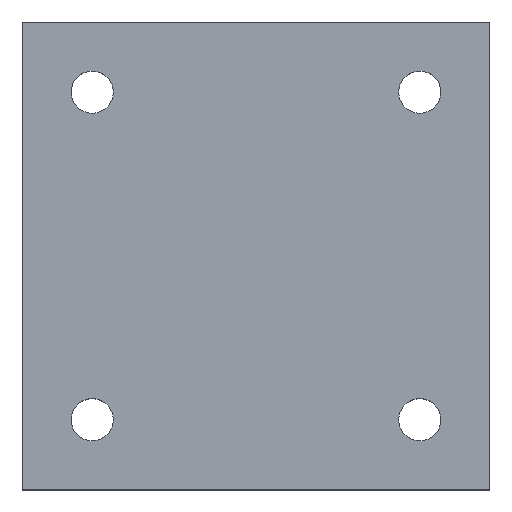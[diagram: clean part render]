
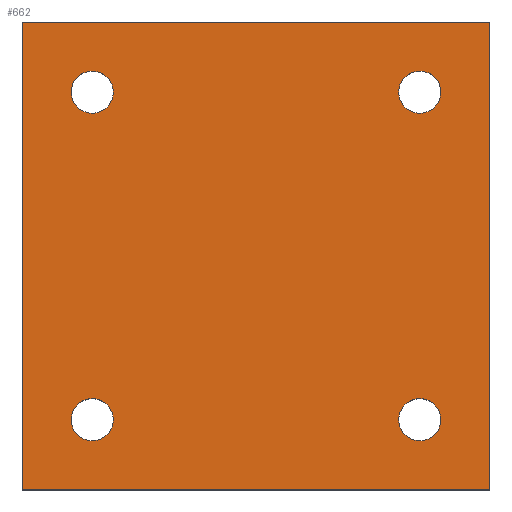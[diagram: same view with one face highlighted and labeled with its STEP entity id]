
A CAD part, top view. The second image highlights one B-rep face of the part: STEP entity #662.
In plain terms, the highlighted planar face has unit normal (0, 0, 1).
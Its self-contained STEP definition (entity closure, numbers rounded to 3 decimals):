
#24 = VERTEX_POINT('',#25);
#25 = CARTESIAN_POINT('',(-100.,-100.,20.));
#32 = PLANE('',#33);
#33 = AXIS2_PLACEMENT_3D('',#34,#35,#36);
#34 = CARTESIAN_POINT('',(-100.,-100.,0.));
#35 = DIRECTION('',(0.,1.,0.));
#36 = DIRECTION('',(1.,0.,0.));
#44 = PLANE('',#45);
#45 = AXIS2_PLACEMENT_3D('',#46,#47,#48);
#46 = CARTESIAN_POINT('',(-100.,100.,0.));
#47 = DIRECTION('',(1.,0.,-0.));
#48 = DIRECTION('',(0.,-1.,0.));
#56 = EDGE_CURVE('',#24,#57,#59,.T.);
#57 = VERTEX_POINT('',#58);
#58 = CARTESIAN_POINT('',(100.,-100.,20.));
#59 = SURFACE_CURVE('',#60,(#64,#71),.PCURVE_S1.);
#60 = LINE('',#61,#62);
#61 = CARTESIAN_POINT('',(-100.,-100.,20.));
#62 = VECTOR('',#63,1.);
#63 = DIRECTION('',(1.,0.,0.));
#64 = PCURVE('',#32,#65);
#65 = DEFINITIONAL_REPRESENTATION('',(#66),#70);
#66 = LINE('',#67,#68);
#67 = CARTESIAN_POINT('',(0.,-20.));
#68 = VECTOR('',#69,1.);
#69 = DIRECTION('',(1.,0.));
#70 = ( GEOMETRIC_REPRESENTATION_CONTEXT(2) 
PARAMETRIC_REPRESENTATION_CONTEXT() REPRESENTATION_CONTEXT('2D SPACE',''
  ) );
#71 = PCURVE('',#72,#77);
#72 = PLANE('',#73);
#73 = AXIS2_PLACEMENT_3D('',#74,#75,#76);
#74 = CARTESIAN_POINT('',(0.,0.,20.));
#75 = DIRECTION('',(0.,0.,1.));
#76 = DIRECTION('',(1.,0.,-0.));
#77 = DEFINITIONAL_REPRESENTATION('',(#78),#82);
#78 = LINE('',#79,#80);
#79 = CARTESIAN_POINT('',(-100.,-100.));
#80 = VECTOR('',#81,1.);
#81 = DIRECTION('',(1.,0.));
#82 = ( GEOMETRIC_REPRESENTATION_CONTEXT(2) 
PARAMETRIC_REPRESENTATION_CONTEXT() REPRESENTATION_CONTEXT('2D SPACE',''
  ) );
#100 = PLANE('',#101);
#101 = AXIS2_PLACEMENT_3D('',#102,#103,#104);
#102 = CARTESIAN_POINT('',(100.,-100.,0.));
#103 = DIRECTION('',(-1.,0.,0.));
#104 = DIRECTION('',(0.,1.,0.));
#142 = EDGE_CURVE('',#57,#143,#145,.T.);
#143 = VERTEX_POINT('',#144);
#144 = CARTESIAN_POINT('',(100.,100.,20.));
#145 = SURFACE_CURVE('',#146,(#150,#157),.PCURVE_S1.);
#146 = LINE('',#147,#148);
#147 = CARTESIAN_POINT('',(100.,-100.,20.));
#148 = VECTOR('',#149,1.);
#149 = DIRECTION('',(0.,1.,0.));
#150 = PCURVE('',#100,#151);
#151 = DEFINITIONAL_REPRESENTATION('',(#152),#156);
#152 = LINE('',#153,#154);
#153 = CARTESIAN_POINT('',(0.,-20.));
#154 = VECTOR('',#155,1.);
#155 = DIRECTION('',(1.,0.));
#156 = ( GEOMETRIC_REPRESENTATION_CONTEXT(2) 
PARAMETRIC_REPRESENTATION_CONTEXT() REPRESENTATION_CONTEXT('2D SPACE',''
  ) );
#157 = PCURVE('',#72,#158);
#158 = DEFINITIONAL_REPRESENTATION('',(#159),#163);
#159 = LINE('',#160,#161);
#160 = CARTESIAN_POINT('',(100.,-100.));
#161 = VECTOR('',#162,1.);
#162 = DIRECTION('',(0.,1.));
#163 = ( GEOMETRIC_REPRESENTATION_CONTEXT(2) 
PARAMETRIC_REPRESENTATION_CONTEXT() REPRESENTATION_CONTEXT('2D SPACE',''
  ) );
#181 = PLANE('',#182);
#182 = AXIS2_PLACEMENT_3D('',#183,#184,#185);
#183 = CARTESIAN_POINT('',(100.,100.,0.));
#184 = DIRECTION('',(0.,-1.,0.));
#185 = DIRECTION('',(-1.,0.,0.));
#218 = EDGE_CURVE('',#143,#219,#221,.T.);
#219 = VERTEX_POINT('',#220);
#220 = CARTESIAN_POINT('',(-100.,100.,20.));
#221 = SURFACE_CURVE('',#222,(#226,#233),.PCURVE_S1.);
#222 = LINE('',#223,#224);
#223 = CARTESIAN_POINT('',(100.,100.,20.));
#224 = VECTOR('',#225,1.);
#225 = DIRECTION('',(-1.,0.,0.));
#226 = PCURVE('',#181,#227);
#227 = DEFINITIONAL_REPRESENTATION('',(#228),#232);
#228 = LINE('',#229,#230);
#229 = CARTESIAN_POINT('',(0.,-20.));
#230 = VECTOR('',#231,1.);
#231 = DIRECTION('',(1.,0.));
#232 = ( GEOMETRIC_REPRESENTATION_CONTEXT(2) 
PARAMETRIC_REPRESENTATION_CONTEXT() REPRESENTATION_CONTEXT('2D SPACE',''
  ) );
#233 = PCURVE('',#72,#234);
#234 = DEFINITIONAL_REPRESENTATION('',(#235),#239);
#235 = LINE('',#236,#237);
#236 = CARTESIAN_POINT('',(100.,100.));
#237 = VECTOR('',#238,1.);
#238 = DIRECTION('',(-1.,0.));
#239 = ( GEOMETRIC_REPRESENTATION_CONTEXT(2) 
PARAMETRIC_REPRESENTATION_CONTEXT() REPRESENTATION_CONTEXT('2D SPACE',''
  ) );
#289 = EDGE_CURVE('',#219,#24,#290,.T.);
#290 = SURFACE_CURVE('',#291,(#295,#302),.PCURVE_S1.);
#291 = LINE('',#292,#293);
#292 = CARTESIAN_POINT('',(-100.,100.,20.));
#293 = VECTOR('',#294,1.);
#294 = DIRECTION('',(0.,-1.,0.));
#295 = PCURVE('',#44,#296);
#296 = DEFINITIONAL_REPRESENTATION('',(#297),#301);
#297 = LINE('',#298,#299);
#298 = CARTESIAN_POINT('',(0.,-20.));
#299 = VECTOR('',#300,1.);
#300 = DIRECTION('',(1.,0.));
#301 = ( GEOMETRIC_REPRESENTATION_CONTEXT(2) 
PARAMETRIC_REPRESENTATION_CONTEXT() REPRESENTATION_CONTEXT('2D SPACE',''
  ) );
#302 = PCURVE('',#72,#303);
#303 = DEFINITIONAL_REPRESENTATION('',(#304),#308);
#304 = LINE('',#305,#306);
#305 = CARTESIAN_POINT('',(-100.,100.));
#306 = VECTOR('',#307,1.);
#307 = DIRECTION('',(0.,-1.));
#308 = ( GEOMETRIC_REPRESENTATION_CONTEXT(2) 
PARAMETRIC_REPRESENTATION_CONTEXT() REPRESENTATION_CONTEXT('2D SPACE',''
  ) );
#338 = VERTEX_POINT('',#339);
#339 = CARTESIAN_POINT('',(-61.,-70.,20.));
#346 = CYLINDRICAL_SURFACE('',#347,9.);
#347 = AXIS2_PLACEMENT_3D('',#348,#349,#350);
#348 = CARTESIAN_POINT('',(-70.,-70.,0.));
#349 = DIRECTION('',(-0.,-0.,-1.));
#350 = DIRECTION('',(1.,0.,-0.));
#365 = EDGE_CURVE('',#338,#338,#366,.T.);
#366 = SURFACE_CURVE('',#367,(#372,#379),.PCURVE_S1.);
#367 = CIRCLE('',#368,9.);
#368 = AXIS2_PLACEMENT_3D('',#369,#370,#371);
#369 = CARTESIAN_POINT('',(-70.,-70.,20.));
#370 = DIRECTION('',(0.,0.,1.));
#371 = DIRECTION('',(1.,0.,-0.));
#372 = PCURVE('',#346,#373);
#373 = DEFINITIONAL_REPRESENTATION('',(#374),#378);
#374 = LINE('',#375,#376);
#375 = CARTESIAN_POINT('',(-0.,-20.));
#376 = VECTOR('',#377,1.);
#377 = DIRECTION('',(-1.,0.));
#378 = ( GEOMETRIC_REPRESENTATION_CONTEXT(2) 
PARAMETRIC_REPRESENTATION_CONTEXT() REPRESENTATION_CONTEXT('2D SPACE',''
  ) );
#379 = PCURVE('',#72,#380);
#380 = DEFINITIONAL_REPRESENTATION('',(#381),#385);
#381 = CIRCLE('',#382,9.);
#382 = AXIS2_PLACEMENT_2D('',#383,#384);
#383 = CARTESIAN_POINT('',(-70.,-70.));
#384 = DIRECTION('',(1.,0.));
#385 = ( GEOMETRIC_REPRESENTATION_CONTEXT(2) 
PARAMETRIC_REPRESENTATION_CONTEXT() REPRESENTATION_CONTEXT('2D SPACE',''
  ) );
#416 = VERTEX_POINT('',#417);
#417 = CARTESIAN_POINT('',(-61.,70.,20.));
#424 = CYLINDRICAL_SURFACE('',#425,9.);
#425 = AXIS2_PLACEMENT_3D('',#426,#427,#428);
#426 = CARTESIAN_POINT('',(-70.,70.,0.));
#427 = DIRECTION('',(-0.,-0.,-1.));
#428 = DIRECTION('',(1.,0.,-0.));
#443 = EDGE_CURVE('',#416,#416,#444,.T.);
#444 = SURFACE_CURVE('',#445,(#450,#457),.PCURVE_S1.);
#445 = CIRCLE('',#446,9.);
#446 = AXIS2_PLACEMENT_3D('',#447,#448,#449);
#447 = CARTESIAN_POINT('',(-70.,70.,20.));
#448 = DIRECTION('',(0.,0.,1.));
#449 = DIRECTION('',(1.,0.,-0.));
#450 = PCURVE('',#424,#451);
#451 = DEFINITIONAL_REPRESENTATION('',(#452),#456);
#452 = LINE('',#453,#454);
#453 = CARTESIAN_POINT('',(-0.,-20.));
#454 = VECTOR('',#455,1.);
#455 = DIRECTION('',(-1.,0.));
#456 = ( GEOMETRIC_REPRESENTATION_CONTEXT(2) 
PARAMETRIC_REPRESENTATION_CONTEXT() REPRESENTATION_CONTEXT('2D SPACE',''
  ) );
#457 = PCURVE('',#72,#458);
#458 = DEFINITIONAL_REPRESENTATION('',(#459),#463);
#459 = CIRCLE('',#460,9.);
#460 = AXIS2_PLACEMENT_2D('',#461,#462);
#461 = CARTESIAN_POINT('',(-70.,70.));
#462 = DIRECTION('',(1.,0.));
#463 = ( GEOMETRIC_REPRESENTATION_CONTEXT(2) 
PARAMETRIC_REPRESENTATION_CONTEXT() REPRESENTATION_CONTEXT('2D SPACE',''
  ) );
#494 = VERTEX_POINT('',#495);
#495 = CARTESIAN_POINT('',(79.,-70.,20.));
#502 = CYLINDRICAL_SURFACE('',#503,9.);
#503 = AXIS2_PLACEMENT_3D('',#504,#505,#506);
#504 = CARTESIAN_POINT('',(70.,-70.,0.));
#505 = DIRECTION('',(-0.,-0.,-1.));
#506 = DIRECTION('',(1.,0.,-0.));
#521 = EDGE_CURVE('',#494,#494,#522,.T.);
#522 = SURFACE_CURVE('',#523,(#528,#535),.PCURVE_S1.);
#523 = CIRCLE('',#524,9.);
#524 = AXIS2_PLACEMENT_3D('',#525,#526,#527);
#525 = CARTESIAN_POINT('',(70.,-70.,20.));
#526 = DIRECTION('',(0.,0.,1.));
#527 = DIRECTION('',(1.,0.,-0.));
#528 = PCURVE('',#502,#529);
#529 = DEFINITIONAL_REPRESENTATION('',(#530),#534);
#530 = LINE('',#531,#532);
#531 = CARTESIAN_POINT('',(-0.,-20.));
#532 = VECTOR('',#533,1.);
#533 = DIRECTION('',(-1.,0.));
#534 = ( GEOMETRIC_REPRESENTATION_CONTEXT(2) 
PARAMETRIC_REPRESENTATION_CONTEXT() REPRESENTATION_CONTEXT('2D SPACE',''
  ) );
#535 = PCURVE('',#72,#536);
#536 = DEFINITIONAL_REPRESENTATION('',(#537),#541);
#537 = CIRCLE('',#538,9.);
#538 = AXIS2_PLACEMENT_2D('',#539,#540);
#539 = CARTESIAN_POINT('',(70.,-70.));
#540 = DIRECTION('',(1.,0.));
#541 = ( GEOMETRIC_REPRESENTATION_CONTEXT(2) 
PARAMETRIC_REPRESENTATION_CONTEXT() REPRESENTATION_CONTEXT('2D SPACE',''
  ) );
#572 = VERTEX_POINT('',#573);
#573 = CARTESIAN_POINT('',(79.,70.,20.));
#580 = CYLINDRICAL_SURFACE('',#581,9.);
#581 = AXIS2_PLACEMENT_3D('',#582,#583,#584);
#582 = CARTESIAN_POINT('',(70.,70.,0.));
#583 = DIRECTION('',(-0.,-0.,-1.));
#584 = DIRECTION('',(1.,0.,-0.));
#599 = EDGE_CURVE('',#572,#572,#600,.T.);
#600 = SURFACE_CURVE('',#601,(#606,#613),.PCURVE_S1.);
#601 = CIRCLE('',#602,9.);
#602 = AXIS2_PLACEMENT_3D('',#603,#604,#605);
#603 = CARTESIAN_POINT('',(70.,70.,20.));
#604 = DIRECTION('',(0.,0.,1.));
#605 = DIRECTION('',(1.,0.,-0.));
#606 = PCURVE('',#580,#607);
#607 = DEFINITIONAL_REPRESENTATION('',(#608),#612);
#608 = LINE('',#609,#610);
#609 = CARTESIAN_POINT('',(-0.,-20.));
#610 = VECTOR('',#611,1.);
#611 = DIRECTION('',(-1.,0.));
#612 = ( GEOMETRIC_REPRESENTATION_CONTEXT(2) 
PARAMETRIC_REPRESENTATION_CONTEXT() REPRESENTATION_CONTEXT('2D SPACE',''
  ) );
#613 = PCURVE('',#72,#614);
#614 = DEFINITIONAL_REPRESENTATION('',(#615),#619);
#615 = CIRCLE('',#616,9.);
#616 = AXIS2_PLACEMENT_2D('',#617,#618);
#617 = CARTESIAN_POINT('',(70.,70.));
#618 = DIRECTION('',(1.,0.));
#619 = ( GEOMETRIC_REPRESENTATION_CONTEXT(2) 
PARAMETRIC_REPRESENTATION_CONTEXT() REPRESENTATION_CONTEXT('2D SPACE',''
  ) );
#662 = ADVANCED_FACE('',(#663,#669,#672,#675,#678),#72,.T.);
#663 = FACE_BOUND('',#664,.T.);
#664 = EDGE_LOOP('',(#665,#666,#667,#668));
#665 = ORIENTED_EDGE('',*,*,#56,.T.);
#666 = ORIENTED_EDGE('',*,*,#142,.T.);
#667 = ORIENTED_EDGE('',*,*,#218,.T.);
#668 = ORIENTED_EDGE('',*,*,#289,.T.);
#669 = FACE_BOUND('',#670,.F.);
#670 = EDGE_LOOP('',(#671));
#671 = ORIENTED_EDGE('',*,*,#365,.T.);
#672 = FACE_BOUND('',#673,.F.);
#673 = EDGE_LOOP('',(#674));
#674 = ORIENTED_EDGE('',*,*,#443,.T.);
#675 = FACE_BOUND('',#676,.F.);
#676 = EDGE_LOOP('',(#677));
#677 = ORIENTED_EDGE('',*,*,#521,.T.);
#678 = FACE_BOUND('',#679,.F.);
#679 = EDGE_LOOP('',(#680));
#680 = ORIENTED_EDGE('',*,*,#599,.T.);
